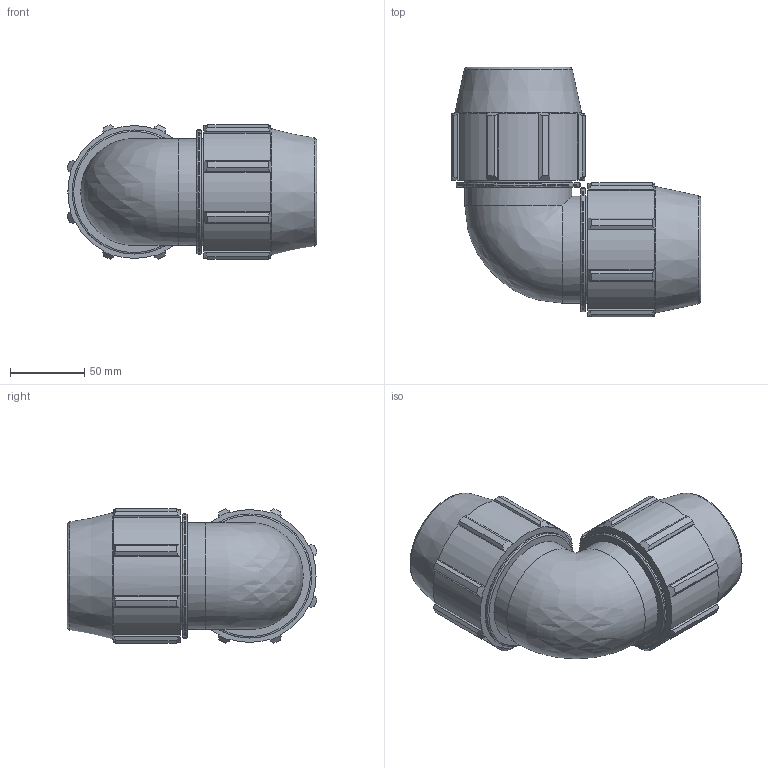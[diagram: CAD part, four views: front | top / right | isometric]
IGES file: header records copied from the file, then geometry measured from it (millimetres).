
Global section: file name: 0705M0015.ipt; native system: Autodesk Inventor 2019; preprocessor: unknown; author: KIM; date: 20210826.124611; units: inch
Bounding box: 168.11 x 168.11 x 90.34 mm (x, y, z)
Volume: 812534.3 mm3; surface area: 113864.3 mm2
Topology: 1 solids, 1 shells, 148 faces, 422 edges, 284 vertices
Faces by surface type: plane 76, cylinder 38, cone 20, revolution 13, bspline 1
Full cylindrical faces by diameter (mm): 72.009 x4, 83.53 x2
